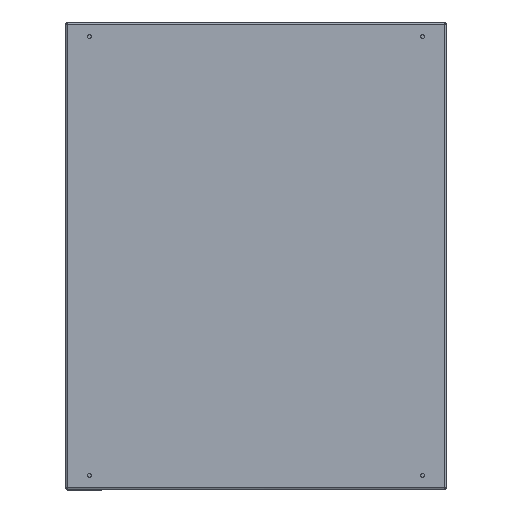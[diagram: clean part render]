
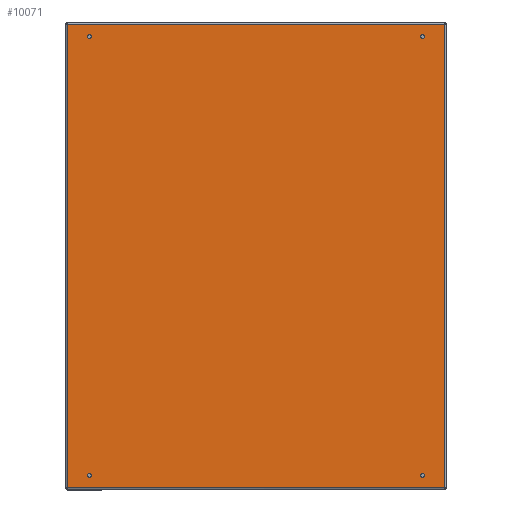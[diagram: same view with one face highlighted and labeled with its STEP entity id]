
A CAD part, front view. The second image highlights one B-rep face of the part: STEP entity #10071.
In plain terms, the highlighted planar face has unit normal (0, -1, 0).
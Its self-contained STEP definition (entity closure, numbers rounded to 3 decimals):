
#12 = CARTESIAN_POINT ( 'NONE',  ( -281.75, 0., -375. ) ) ;
#122 = CARTESIAN_POINT ( 'NONE',  ( 322.6, 0., 396.4 ) ) ;
#314 = FACE_OUTER_BOUND ( 'NONE', #494, .T. ) ;
#343 = DIRECTION ( 'NONE',  ( -1., 0., 0. ) ) ;
#419 = AXIS2_PLACEMENT_3D ( 'NONE', #9926, #7104, #10943 ) ;
#456 = CARTESIAN_POINT ( 'NONE',  ( -322.6, 0., -396.4 ) ) ;
#494 = EDGE_LOOP ( 'NONE', ( #5607, #12680, #9937, #10931 ) ) ;
#536 = EDGE_LOOP ( 'NONE', ( #7588, #3032 ) ) ;
#578 = AXIS2_PLACEMENT_3D ( 'NONE', #3451, #8317, #6398 ) ;
#581 = VECTOR ( 'NONE', #4291, 1000. ) ;
#596 = DIRECTION ( 'NONE',  ( 0., 1., 0. ) ) ;
#641 = EDGE_CURVE ( 'NONE', #9517, #13003, #12365, .T. ) ;
#1041 = DIRECTION ( 'NONE',  ( 0., 1., 0. ) ) ;
#1125 = LINE ( 'NONE', #122, #9324 ) ;
#1143 = CARTESIAN_POINT ( 'NONE',  ( 288.25, 0., 375. ) ) ;
#1241 = CARTESIAN_POINT ( 'NONE',  ( -288.25, 0., -375. ) ) ;
#1287 = VERTEX_POINT ( 'NONE', #8304 ) ;
#1555 = DIRECTION ( 'NONE',  ( -1., 0., 0. ) ) ;
#1711 = CARTESIAN_POINT ( 'NONE',  ( 285., 0., -375. ) ) ;
#1790 = CARTESIAN_POINT ( 'NONE',  ( -322.6, 0., -396.4 ) ) ;
#1957 = EDGE_LOOP ( 'NONE', ( #2415, #7406 ) ) ;
#2080 = DIRECTION ( 'NONE',  ( 1., 0., 0. ) ) ;
#2245 = CARTESIAN_POINT ( 'NONE',  ( 322.6, 0., -396.4 ) ) ;
#2312 = CIRCLE ( 'NONE', #4408, 3.25 ) ;
#2342 = EDGE_CURVE ( 'NONE', #6645, #7168, #12424, .T. ) ;
#2376 = DIRECTION ( 'NONE',  ( 0., 1., 0. ) ) ;
#2415 = ORIENTED_EDGE ( 'NONE', *, *, #641, .T. ) ;
#2752 = EDGE_CURVE ( 'NONE', #9618, #7154, #3887, .T. ) ;
#2834 = EDGE_CURVE ( 'NONE', #4944, #11380, #4204, .T. ) ;
#2908 = EDGE_LOOP ( 'NONE', ( #13005, #3226 ) ) ;
#3015 = DIRECTION ( 'NONE',  ( 1., 0., 0. ) ) ;
#3032 = ORIENTED_EDGE ( 'NONE', *, *, #6294, .T. ) ;
#3152 = FACE_BOUND ( 'NONE', #536, .T. ) ;
#3195 = LINE ( 'NONE', #6316, #8032 ) ;
#3226 = ORIENTED_EDGE ( 'NONE', *, *, #4955, .T. ) ;
#3389 = VERTEX_POINT ( 'NONE', #7009 ) ;
#3451 = CARTESIAN_POINT ( 'NONE',  ( 285., 0., 375. ) ) ;
#3594 = CARTESIAN_POINT ( 'NONE',  ( -322.6, 0., -398.8 ) ) ;
#3820 = DIRECTION ( 'NONE',  ( 0., 1., 0. ) ) ;
#3887 = LINE ( 'NONE', #456, #7191 ) ;
#4163 = ORIENTED_EDGE ( 'NONE', *, *, #9892, .T. ) ;
#4204 = CIRCLE ( 'NONE', #578, 3.25 ) ;
#4291 = DIRECTION ( 'NONE',  ( 1., 0., 0. ) ) ;
#4387 = AXIS2_PLACEMENT_3D ( 'NONE', #4691, #596, #9671 ) ;
#4395 = DIRECTION ( 'NONE',  ( 0., 0., 1. ) ) ;
#4408 = AXIS2_PLACEMENT_3D ( 'NONE', #9045, #1041, #3015 ) ;
#4416 = FACE_BOUND ( 'NONE', #10420, .T. ) ;
#4510 = AXIS2_PLACEMENT_3D ( 'NONE', #6461, #2376, #343 ) ;
#4634 = DIRECTION ( 'NONE',  ( 0., -1., 0. ) ) ;
#4691 = CARTESIAN_POINT ( 'NONE',  ( -285., 0., 375. ) ) ;
#4787 = DIRECTION ( 'NONE',  ( -1., 0., 0. ) ) ;
#4879 = VERTEX_POINT ( 'NONE', #11176 ) ;
#4944 = VERTEX_POINT ( 'NONE', #6178 ) ;
#4955 = EDGE_CURVE ( 'NONE', #7168, #6645, #2312, .T. ) ;
#5388 = AXIS2_PLACEMENT_3D ( 'NONE', #9261, #12228, #8131 ) ;
#5607 = ORIENTED_EDGE ( 'NONE', *, *, #10934, .T. ) ;
#5688 = CIRCLE ( 'NONE', #4510, 3.25 ) ;
#6178 = CARTESIAN_POINT ( 'NONE',  ( 281.75, 0., 375. ) ) ;
#6248 = EDGE_CURVE ( 'NONE', #4879, #7154, #1125, .T. ) ;
#6294 = EDGE_CURVE ( 'NONE', #11380, #4944, #5688, .T. ) ;
#6316 = CARTESIAN_POINT ( 'NONE',  ( 322.6, 0., -396.4 ) ) ;
#6398 = DIRECTION ( 'NONE',  ( -1., 0., 0. ) ) ;
#6461 = CARTESIAN_POINT ( 'NONE',  ( 285., 0., 375. ) ) ;
#6575 = PLANE ( 'NONE',  #9784 ) ;
#6645 = VERTEX_POINT ( 'NONE', #12 ) ;
#6766 = FACE_BOUND ( 'NONE', #1957, .T. ) ;
#6779 = CIRCLE ( 'NONE', #419, 3.25 ) ;
#6804 = AXIS2_PLACEMENT_3D ( 'NONE', #8953, #11026, #2080 ) ;
#7009 = CARTESIAN_POINT ( 'NONE',  ( 288.25, 0., -375. ) ) ;
#7104 = DIRECTION ( 'NONE',  ( 0., 1., 0. ) ) ;
#7154 = VERTEX_POINT ( 'NONE', #10155 ) ;
#7168 = VERTEX_POINT ( 'NONE', #1241 ) ;
#7191 = VECTOR ( 'NONE', #11340, 1000. ) ;
#7231 = AXIS2_PLACEMENT_3D ( 'NONE', #1711, #3820, #4787 ) ;
#7406 = ORIENTED_EDGE ( 'NONE', *, *, #9767, .T. ) ;
#7588 = ORIENTED_EDGE ( 'NONE', *, *, #2834, .T. ) ;
#8032 = VECTOR ( 'NONE', #4395, 1000. ) ;
#8131 = DIRECTION ( 'NONE',  ( -1., 0., 0. ) ) ;
#8304 = CARTESIAN_POINT ( 'NONE',  ( 281.75, 0., -375. ) ) ;
#8317 = DIRECTION ( 'NONE',  ( 0., 1., 0. ) ) ;
#8347 = CIRCLE ( 'NONE', #5388, 3.25 ) ;
#8953 = CARTESIAN_POINT ( 'NONE',  ( -285., 0., -375. ) ) ;
#9045 = CARTESIAN_POINT ( 'NONE',  ( -285., 0., -375. ) ) ;
#9098 = EDGE_CURVE ( 'NONE', #1287, #3389, #9188, .T. ) ;
#9188 = CIRCLE ( 'NONE', #7231, 3.25 ) ;
#9261 = CARTESIAN_POINT ( 'NONE',  ( 285., 0., -375. ) ) ;
#9324 = VECTOR ( 'NONE', #12128, 1000. ) ;
#9453 = EDGE_CURVE ( 'NONE', #11388, #4879, #3195, .T. ) ;
#9517 = VERTEX_POINT ( 'NONE', #12318 ) ;
#9590 = LINE ( 'NONE', #10472, #581 ) ;
#9618 = VERTEX_POINT ( 'NONE', #1790 ) ;
#9671 = DIRECTION ( 'NONE',  ( 1., 0., 0. ) ) ;
#9767 = EDGE_CURVE ( 'NONE', #13003, #9517, #6779, .T. ) ;
#9784 = AXIS2_PLACEMENT_3D ( 'NONE', #3594, #4634, #1555 ) ;
#9799 = CARTESIAN_POINT ( 'NONE',  ( -288.25, 0., 375. ) ) ;
#9892 = EDGE_CURVE ( 'NONE', #3389, #1287, #8347, .T. ) ;
#9926 = CARTESIAN_POINT ( 'NONE',  ( -285., 0., 375. ) ) ;
#9937 = ORIENTED_EDGE ( 'NONE', *, *, #6248, .T. ) ;
#10071 = ADVANCED_FACE ( 'NONE', ( #314, #11995, #6766, #3152, #4416 ), #6575, .T. ) ;
#10155 = CARTESIAN_POINT ( 'NONE',  ( -322.6, 0., 396.4 ) ) ;
#10420 = EDGE_LOOP ( 'NONE', ( #11006, #4163 ) ) ;
#10472 = CARTESIAN_POINT ( 'NONE',  ( -322.6, 0., -396.4 ) ) ;
#10931 = ORIENTED_EDGE ( 'NONE', *, *, #2752, .F. ) ;
#10934 = EDGE_CURVE ( 'NONE', #9618, #11388, #9590, .T. ) ;
#10943 = DIRECTION ( 'NONE',  ( 1., 0., 0. ) ) ;
#11006 = ORIENTED_EDGE ( 'NONE', *, *, #9098, .T. ) ;
#11026 = DIRECTION ( 'NONE',  ( 0., 1., 0. ) ) ;
#11176 = CARTESIAN_POINT ( 'NONE',  ( 322.6, 0., 396.4 ) ) ;
#11340 = DIRECTION ( 'NONE',  ( 0., 0., 1. ) ) ;
#11380 = VERTEX_POINT ( 'NONE', #1143 ) ;
#11388 = VERTEX_POINT ( 'NONE', #2245 ) ;
#11995 = FACE_BOUND ( 'NONE', #2908, .T. ) ;
#12128 = DIRECTION ( 'NONE',  ( -1., 0., 0. ) ) ;
#12228 = DIRECTION ( 'NONE',  ( 0., 1., 0. ) ) ;
#12318 = CARTESIAN_POINT ( 'NONE',  ( -281.75, 0., 375. ) ) ;
#12365 = CIRCLE ( 'NONE', #4387, 3.25 ) ;
#12424 = CIRCLE ( 'NONE', #6804, 3.25 ) ;
#12680 = ORIENTED_EDGE ( 'NONE', *, *, #9453, .T. ) ;
#13003 = VERTEX_POINT ( 'NONE', #9799 ) ;
#13005 = ORIENTED_EDGE ( 'NONE', *, *, #2342, .T. ) ;
